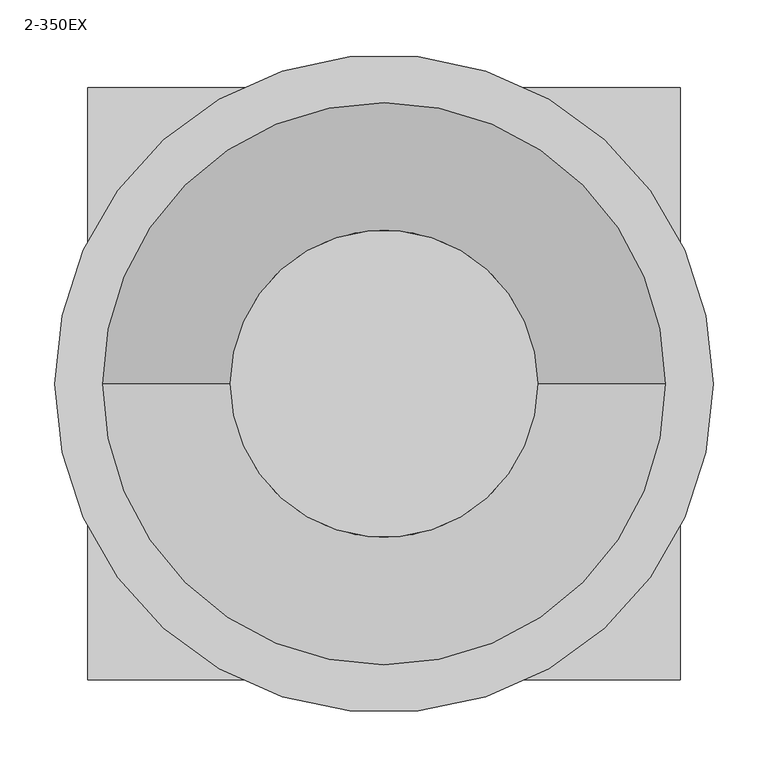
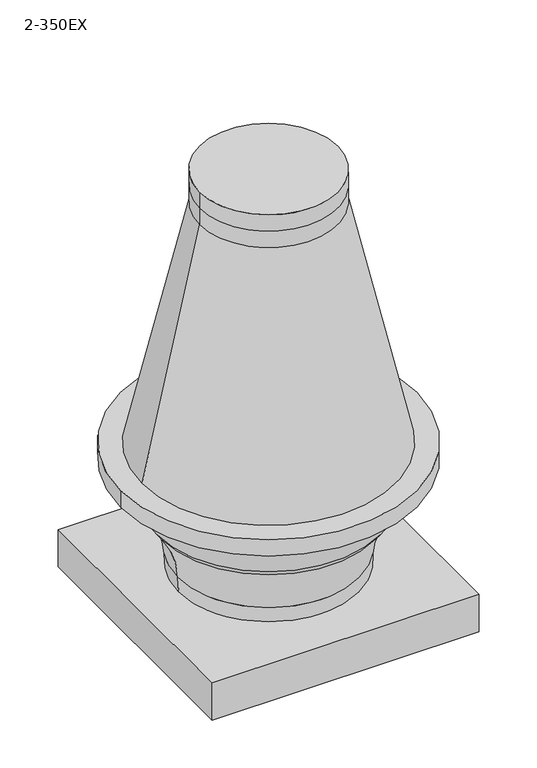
"""IFC4 building model written with IfcOpenShell, lengths in millimetres: unitary equipment geometry, VE-Wentylator-ParaForma-Harmann-VITT_EX-Wywiewny : 2-350EX."""

from ifc_helpers import new_model, si_unit, point, frame, origin, origin_2d, place, context, project, spatial, polyline, circle_curve, ellipse_curve, trimmed, segment, composite_curve, outline, extrude, faceted_brep, source, transform, mapped, element, save
from ifc_brep_helpers import plane_surface, cylinder_surface, revolved_surface, advanced_brep


def unitary_equipment_2_350ex_3653eb32(model_context):
    return source(origin(), model_context, "Body", "SolidModel", [
        advanced_brep(
        [(-256.2, 0.0, 247.5), (256.2, 0.0, 247.5), (182.6, 0.0, 25.0), (-182.6, 0.0, 25.0), (-226.2, 0.0, 162.1), (-216.5, 0.0, 148.9), (216.5, 0.0, 148.9), (226.2, 0.0, 162.1), (-252.0, 0.0, 222.9), (252.0, 0.0, 222.9), (-183.9, 0.0, 56.2), (183.9, 0.0, 56.2)],
        [
            (0, 1, circle_curve(frame((0.0, 0.0, 247.5), z_axis=(0.0, 0.0, 1.0), x_axis=(1.0, 0.0, 0.0)), 256.2)),
            (1, 0, circle_curve(frame((0.0, 0.0, 247.5), z_axis=(0.0, 0.0, 1.0), x_axis=(1.0, 0.0, 0.0)), 256.2)),
            (2, 3, circle_curve(frame((0.0, 0.0, 25.0), z_axis=(0.0, 0.0, -1.0), x_axis=(1.0, 0.0, 0.0)), 182.6)),
            (3, 2, circle_curve(frame((0.0, 0.0, 25.0), z_axis=(0.0, 0.0, -1.0), x_axis=(1.0, 0.0, 0.0)), 182.6)),
            (4, 5),
            (5, 6, circle_curve(frame((0.0, 0.0, 148.9), z_axis=(0.0, 0.0, 1.0), x_axis=(1.0, 0.0, 0.0)), 216.5)),
            (6, 7),
            (7, 4, circle_curve(frame((0.0, 0.0, 162.1), z_axis=(0.0, 0.0, -1.0), x_axis=(1.0, 0.0, 0.0)), 226.2)),
            (4, 7, circle_curve(frame((0.0, 0.0, 162.1), z_axis=(0.0, 0.0, -1.0), x_axis=(1.0, 0.0, 0.0)), 226.2)),
            (6, 5, circle_curve(frame((0.0, 0.0, 148.9), z_axis=(0.0, 0.0, 1.0), x_axis=(1.0, 0.0, 0.0)), 216.5)),
            (0, 8),
            (8, 9, circle_curve(frame((0.0, 0.0, 222.9), z_axis=(0.0, 0.0, 1.0), x_axis=(1.0, 0.0, 0.0)), 252.0)),
            (9, 1),
            (9, 8, circle_curve(frame((0.0, 0.0, 222.9), z_axis=(0.0, 0.0, 1.0), x_axis=(1.0, 0.0, 0.0)), 252.0)),
            (10, 3),
            (2, 11),
            (11, 10, circle_curve(frame((0.0, 0.0, 56.2), z_axis=(0.0, 0.0, -1.0), x_axis=(1.0, 0.0, 0.0)), 183.9)),
            (10, 11, circle_curve(frame((0.0, 0.0, 56.2), z_axis=(0.0, 0.0, -1.0), x_axis=(1.0, 0.0, 0.0)), 183.9)),
            (5, 10, circle_curve(frame((-352.4223879, 0.0, 49.0176392), z_axis=(0.0, 1.0, 0.0), x_axis=(1.0, 0.0, 0.0)), 168.6753732)),
            (11, 6, circle_curve(frame((352.4223879, 0.0, 49.0176392), z_axis=(0.0, 1.0, 0.0), x_axis=(-1.0, 0.0, 0.0)), 168.6753732)),
            (7, 9, circle_curve(frame((110.6660995, 0.0, 246.9999117), z_axis=(0.0, -1.0, 0.0), x_axis=(-1.0, 0.0, 0.0)), 143.3739069)),
            (8, 4, circle_curve(frame((-110.6660995, 0.0, 246.9999117), z_axis=(0.0, -1.0, 0.0), x_axis=(1.0, 0.0, 0.0)), 143.3739069)),
        ],
        [
            plane_surface(frame((0.0, 0.0, 247.5), z_axis=(0.0, 0.0, 1.0), x_axis=(0.0, -1.0, 0.0))),
            plane_surface(frame((0.0, 0.0, 25.0), z_axis=(0.0, 0.0, -1.0), x_axis=(0.0, -1.0, 0.0))),
            revolved_surface(polyline([(226.2, 0.0, 162.1), (216.5, 0.0, 148.9)]), (0.0, 0.0, 25.0), (0.0, 0.0, -1.0)),
            revolved_surface(polyline([(256.2, 0.0, 247.5), (252.0, 0.0, 222.9)]), (0.0, 0.0, 25.0), (0.0, 0.0, -1.0)),
            revolved_surface(polyline([(183.9, 0.0, 56.2), (182.6, 0.0, 25.0)]), (0.0, 0.0, 25.0), (0.0, 0.0, -1.0)),
            revolved_surface(trimmed(ellipse_curve(frame((352.4223879, 0.0, 49.0176392), z_axis=(0.0, -1.0, 0.0), x_axis=(-1.0, 0.0, 0.0)), 168.6753732, 168.6753732), [point((216.5, 0.0, 148.9))], [point((183.9, 0.0, 56.2))], True, "CARTESIAN"), (0.0, 0.0, 25.0), (0.0, 0.0, -1.0)),
            revolved_surface(trimmed(ellipse_curve(frame((110.6660995, 0.0, 246.9999117), z_axis=(0.0, 1.0, 0.0), x_axis=(-1.0, 0.0, 0.0)), 143.3739069, 143.3739069), [point((252.0, 0.0, 222.9))], [point((226.2, 0.0, 162.1))], True, "CARTESIAN"), (0.0, 0.0, 25.0), (0.0, 0.0, -1.0)),
        ],
        [
            (0, [[1, 2]]),
            (1, [[3, 4]]),
            (2, [[5, 6, 7, 8]]),
            (2, [[-5, 9, -7, 10]]),
            (3, [[11, 12, 13, -1]]),
            (3, [[-11, -2, -13, 14]]),
            (4, [[15, -3, 16, 17]]),
            (4, [[-15, 18, -16, -4]]),
            (5, [[-6, 19, -17, 20]]),
            (5, [[-10, -20, -18, -19]]),
            (6, [[-8, 21, -12, 22]]),
            (6, [[-9, -22, -14, -21]]),
        ],
    ),
        advanced_brep(
        [(-256.25, 0.0, 282.5), (256.25, 0.0, 282.5), (140.0, 0.0, 795.0), (-140.0, 0.0, 795.0), (-140.0, 0.0, 830.0), (140.0, 0.0, 830.0), (-140.0, 0.0, 865.0), (140.0, 0.0, 865.0)],
        [
            (0, 1, circle_curve(frame((0.0, 0.0, 282.5), z_axis=(0.0, 0.0, -1.0), x_axis=(1.0, 0.0, 0.0)), 256.25)),
            (1, 0, circle_curve(frame((0.0, 0.0, 282.5), z_axis=(0.0, 0.0, -1.0), x_axis=(-1.0, 0.0, 0.0)), 256.25)),
            (1, 2),
            (2, 3, circle_curve(frame((0.0, 0.0, 795.0), z_axis=(0.0, 0.0, -1.0), x_axis=(-1.0, 0.0, 0.0)), 140.0)),
            (3, 0),
            (3, 2, circle_curve(frame((0.0, 0.0, 795.0), z_axis=(0.0, 0.0, -1.0), x_axis=(1.0, 0.0, 0.0)), 140.0)),
            (3, 4),
            (4, 5, circle_curve(frame((0.0, 0.0, 830.0), z_axis=(0.0, 0.0, -1.0), x_axis=(1.0, 0.0, 0.0)), 140.0)),
            (5, 2),
            (5, 4, circle_curve(frame((0.0, 0.0, 830.0), z_axis=(0.0, 0.0, -1.0), x_axis=(1.0, 0.0, 0.0)), 140.0)),
            (6, 7, circle_curve(frame((0.0, 0.0, 865.0), z_axis=(0.0, 0.0, 1.0), x_axis=(1.0, 0.0, 0.0)), 140.0)),
            (7, 6, circle_curve(frame((0.0, 0.0, 865.0), z_axis=(0.0, 0.0, 1.0), x_axis=(1.0, 0.0, 0.0)), 140.0)),
            (7, 5),
            (4, 6),
        ],
        [
            plane_surface(frame((0.0, 0.0, 282.5), z_axis=(0.0, 0.0, -1.0), x_axis=(0.0, -1.0, 0.0))),
            revolved_surface(polyline([(-140.00000000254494, 0.0, 795.0), (-256.25, 0.0, 282.5)]), (0.0, 0.0, 1412.2043011), (0.0, 0.0, -1.0)),
            revolved_surface(polyline([(140.00000000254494, 0.0, 795.0), (256.25, 0.0, 282.5)]), (0.0, 0.0, 1412.2043011), (0.0, 0.0, -1.0)),
            cylinder_surface(frame((0.0, 0.0, 795.0), z_axis=(0.0, 0.0, -1.0), x_axis=(1.0, 0.0, 0.0)), 140.0),
            plane_surface(frame((0.0, 0.0, 865.0), z_axis=(0.0, 0.0, 1.0), x_axis=(0.0, 1.0, 0.0))),
        ],
        [
            (0, [[1, 2]]),
            (1, [[-2, 3, 4, 5]]),
            (2, [[-1, -5, 6, -3]]),
            (3, [[7, 8, 9, -6]]),
            (3, [[-7, -4, -9, 10]]),
            (4, [[11, 12]]),
            (3, [[-12, 13, -8, 14]]),
            (3, [[-11, -14, -10, -13]]),
        ],
    ),
        faceted_brep([(245.0, -245.0, -55.0), (245.0, -245.0, 0.0), (245.0, 245.0, 0.0), (245.0, 245.0, -55.0), (270.0, -270.0, 25.0), (270.0, -270.0, -55.0), (270.0, 270.0, -55.0), (270.0, 270.0, 25.0), (-245.0, 245.0, 0.0), (-245.0, 245.0, -55.0), (-270.0, 270.0, -55.0), (-270.0, 270.0, 25.0), (-245.0, -245.0, 0.0), (-245.0, -245.0, -55.0), (-270.0, -270.0, -55.0), (-270.0, -270.0, 25.0)], [[[0, 1, 2, 3]], [[4, 5, 6, 7]], [[3, 2, 8, 9]], [[7, 6, 10, 11]], [[9, 8, 12, 13]], [[11, 10, 14, 15]], [[7, 11, 15, 4]], [[1, 12, 8, 2]], [[13, 12, 1, 0]], [[5, 14, 10, 6], [3, 9, 13, 0]], [[15, 14, 5, 4]]]),
        extrude(outline(composite_curve([segment(trimmed(circle_curve(origin_2d(), 300.0), [point((-300.0, 0.0))], [point((300.0, 0.0))], False, "CARTESIAN"), True, "CONTINUOUS"), segment(trimmed(circle_curve(origin_2d(), 300.0), [point((300.0, 0.0))], [point((-300.0, 0.0))], False, "CARTESIAN"), True, "CONTINUOUS")], self_intersect=False)), frame((0.0, 0.0, 247.5), z_axis=(0.0, 0.0, 1.0), x_axis=(1.0, 0.0, 0.0)), (0.0, 0.0, 1.0), 35.0),
    ])


if __name__ == "__main__":
    model = new_model("IFC4")
    model_context = context("Model", 3, world=origin())
    ifc_project = project(units=[si_unit("LENGTHUNIT", "METRE", prefix="MILLI")], contexts=[model_context])
    site = spatial("IfcSite", under=ifc_project)
    building = spatial("IfcBuilding", under=site)
    placement = place(None, origin())
    unitary_equipment_2_350ex_shape = unitary_equipment_2_350ex_3653eb32(model_context)
    element("IfcUnitaryEquipment", 1, ObjectType="VE-Wentylator-ParaForma-Harmann-VITT_EX-Wywiewny : 2-350EX", at=placement, inside=building, context=model_context, shape_type="MappedRepresentation", body=[
        mapped(unitary_equipment_2_350ex_shape, transform((0.0, 0.0, 0.0), x_axis=(1.0, 0.0, 0.0), y_axis=(0.0, 1.0, 0.0), z_axis=(0.0, 0.0, 1.0))),
    ])
    save(model, "model.ifc")
